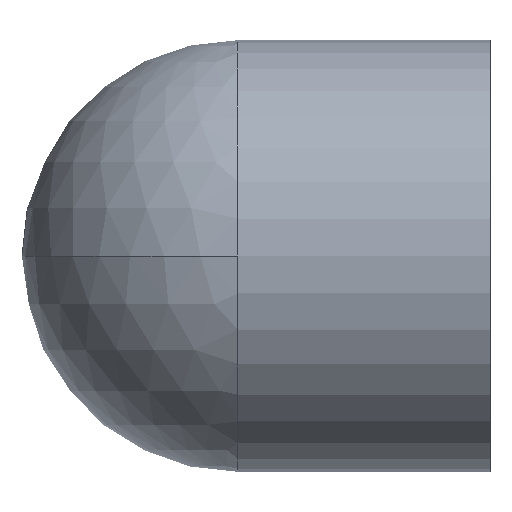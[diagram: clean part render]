
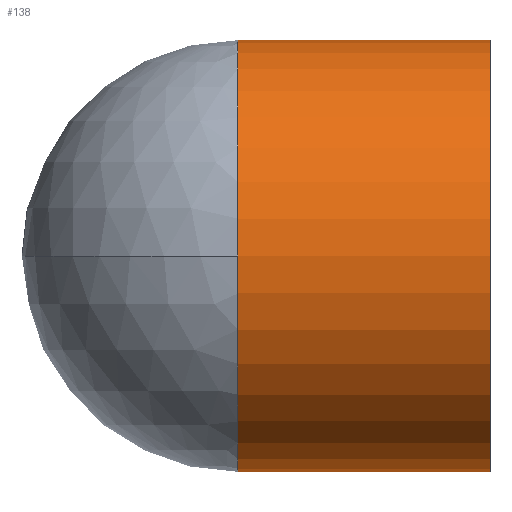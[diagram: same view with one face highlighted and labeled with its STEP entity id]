
A CAD part, left-side view. The second image highlights one B-rep face of the part: STEP entity #138.
In plain terms, the highlighted cylindrical face has radius 38.1 mm (diameter 76.2 mm), a partial arc.
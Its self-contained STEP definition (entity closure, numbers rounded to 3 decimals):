
#4 = DIRECTION ( 'NONE',  ( 0., 0., -1. ) ) ;
#12 = VERTEX_POINT ( 'NONE', #20 ) ;
#15 = CARTESIAN_POINT ( 'NONE',  ( 12.7, 38.1, 38.1 ) ) ;
#17 = CARTESIAN_POINT ( 'NONE',  ( 12.7, -6.4, 38.1 ) ) ;
#20 = CARTESIAN_POINT ( 'NONE',  ( -25.4, 38.1, 0. ) ) ;
#22 = AXIS2_PLACEMENT_3D ( 'NONE', #172, #292, #127 ) ;
#25 = EDGE_CURVE ( 'NONE', #108, #185, #194, .T. ) ;
#28 = CARTESIAN_POINT ( 'NONE',  ( 12.7, 38.1, 38.1 ) ) ;
#44 = EDGE_CURVE ( 'NONE', #12, #268, #272, .T. ) ;
#47 = EDGE_CURVE ( 'NONE', #236, #108, #166, .T. ) ;
#48 = EDGE_LOOP ( 'NONE', ( #203, #89, #182, #137, #227 ) ) ;
#55 = DIRECTION ( 'NONE',  ( 0., -1., 0. ) ) ;
#61 = LINE ( 'NONE', #245, #66 ) ;
#66 = VECTOR ( 'NONE', #55, 1000. ) ;
#69 = DIRECTION ( 'NONE',  ( 0., 0., -1. ) ) ;
#85 = CARTESIAN_POINT ( 'NONE',  ( 12.7, -6.4, 0. ) ) ;
#88 = DIRECTION ( 'NONE',  ( 0., -1., 0. ) ) ;
#89 = ORIENTED_EDGE ( 'NONE', *, *, #303, .T. ) ;
#108 = VERTEX_POINT ( 'NONE', #17 ) ;
#127 = DIRECTION ( 'NONE',  ( 0., 0., -1. ) ) ;
#137 = ORIENTED_EDGE ( 'NONE', *, *, #171, .T. ) ;
#138 = ADVANCED_FACE ( 'NONE', ( #235 ), #296, .T. ) ;
#154 = DIRECTION ( 'NONE',  ( 0., -1., 0. ) ) ;
#157 = AXIS2_PLACEMENT_3D ( 'NONE', #230, #154, #69 ) ;
#166 = LINE ( 'NONE', #15, #221 ) ;
#171 = EDGE_CURVE ( 'NONE', #268, #185, #61, .T. ) ;
#172 = CARTESIAN_POINT ( 'NONE',  ( 12.7, 38.1, 0. ) ) ;
#173 = CARTESIAN_POINT ( 'NONE',  ( 12.7, 38.1, 0. ) ) ;
#182 = ORIENTED_EDGE ( 'NONE', *, *, #44, .T. ) ;
#185 = VERTEX_POINT ( 'NONE', #249 ) ;
#194 = CIRCLE ( 'NONE', #283, 38.1 ) ;
#199 = CARTESIAN_POINT ( 'NONE',  ( 12.7, 38.1, -38.1 ) ) ;
#203 = ORIENTED_EDGE ( 'NONE', *, *, #47, .F. ) ;
#221 = VECTOR ( 'NONE', #232, 1000. ) ;
#226 = DIRECTION ( 'NONE',  ( 0., 0., -1. ) ) ;
#227 = ORIENTED_EDGE ( 'NONE', *, *, #25, .F. ) ;
#230 = CARTESIAN_POINT ( 'NONE',  ( 12.7, 38.1, 0. ) ) ;
#232 = DIRECTION ( 'NONE',  ( 0., -1., 0. ) ) ;
#235 = FACE_OUTER_BOUND ( 'NONE', #48, .T. ) ;
#236 = VERTEX_POINT ( 'NONE', #28 ) ;
#238 = DIRECTION ( 'NONE',  ( 0., -1., 0. ) ) ;
#245 = CARTESIAN_POINT ( 'NONE',  ( 12.7, 38.1, -38.1 ) ) ;
#249 = CARTESIAN_POINT ( 'NONE',  ( 12.7, -6.4, -38.1 ) ) ;
#266 = AXIS2_PLACEMENT_3D ( 'NONE', #173, #238, #4 ) ;
#267 = CIRCLE ( 'NONE', #266, 38.1 ) ;
#268 = VERTEX_POINT ( 'NONE', #199 ) ;
#272 = CIRCLE ( 'NONE', #157, 38.1 ) ;
#283 = AXIS2_PLACEMENT_3D ( 'NONE', #85, #88, #226 ) ;
#292 = DIRECTION ( 'NONE',  ( 0., -1., 0. ) ) ;
#296 = CYLINDRICAL_SURFACE ( 'NONE', #22, 38.1 ) ;
#303 = EDGE_CURVE ( 'NONE', #236, #12, #267, .T. ) ;
